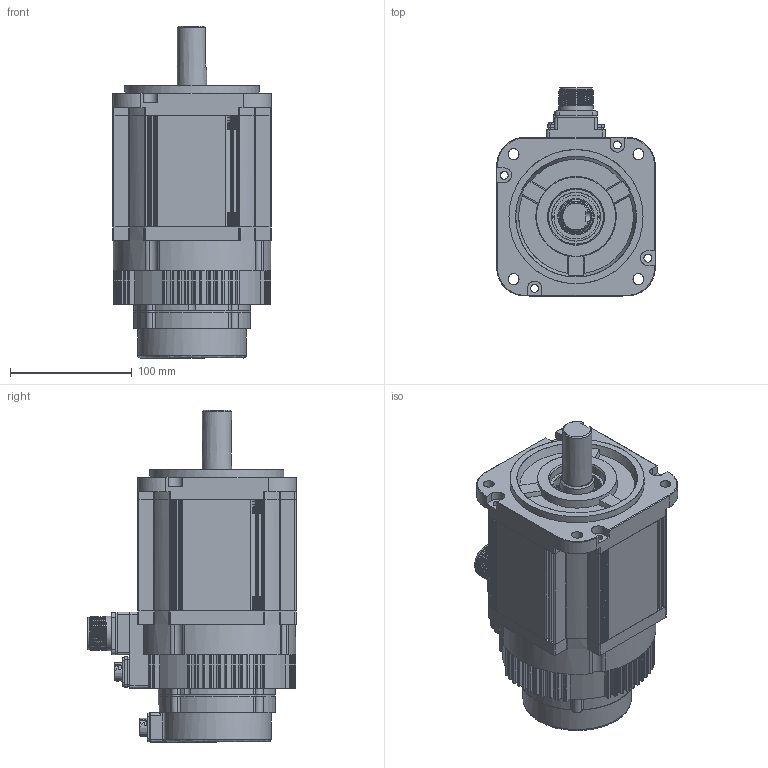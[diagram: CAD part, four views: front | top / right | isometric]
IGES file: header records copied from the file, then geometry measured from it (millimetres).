
Global section: file name: SMP-H180B; native system: Autodesk Inventor 2019; preprocessor: unknown; author: 11755; date: 20210726.181058; units: millimetre
Bounding box: 130 x 170.9 x 272.4 mm (x, y, z)
Surface area: 208385.1 mm2 (no closed solid volume)
Topology: 0 solids, 0 shells, 831 faces, 6988 edges, 6981 vertices
Faces by surface type: revolution 468, bspline 363
